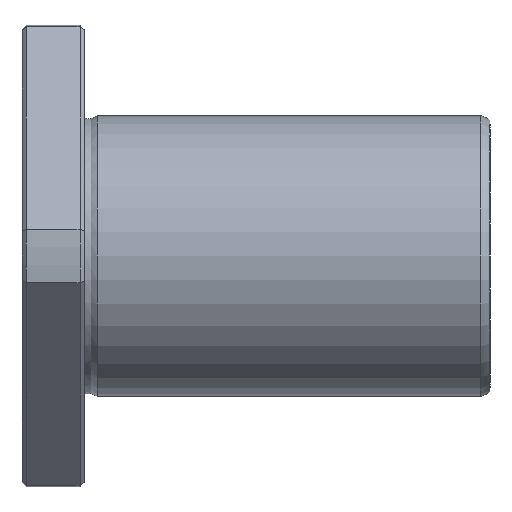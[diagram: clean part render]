
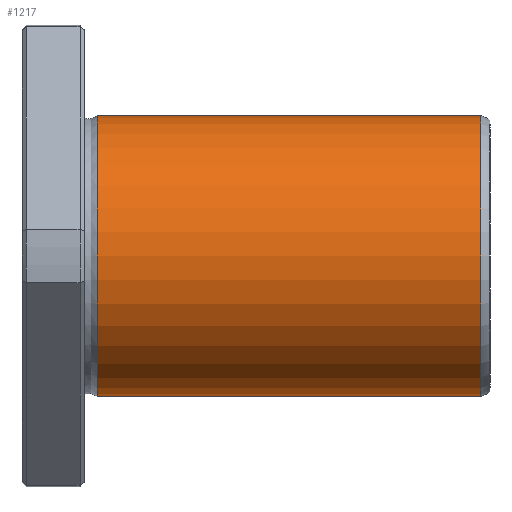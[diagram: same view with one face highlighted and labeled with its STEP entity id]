
A CAD part, front view. The second image highlights one B-rep face of the part: STEP entity #1217.
In plain terms, the highlighted cylindrical face has radius 22.5 mm (diameter 45 mm), a full revolution.
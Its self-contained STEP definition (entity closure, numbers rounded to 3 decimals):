
#1183=CARTESIAN_POINT('',(73.502,0.0,22.5));
#1184=VERTEX_POINT('',#1183);
#1185=CARTESIAN_POINT('',(73.502,0.0,0.0));
#1186=DIRECTION('',(-1.0,0.0,0.0));
#1187=DIRECTION('',(0.0,0.0,1.0));
#1188=AXIS2_PLACEMENT_3D('',#1185,#1186,#1187);
#1189=CIRCLE('',#1188,22.5);
#1190=EDGE_CURVE('',#1184,#1184,#1189,.T.);
#1198=CARTESIAN_POINT('',(42.762,0.0,0.0));
#1199=DIRECTION('',(-1.0,0.0,0.0));
#1200=DIRECTION('',(0.0,0.0,1.0));
#1201=AXIS2_PLACEMENT_3D('',#1198,#1199,#1200);
#1202=CYLINDRICAL_SURFACE('',#1201,22.5);
#1203=CARTESIAN_POINT('',(12.023,0.0,22.5));
#1204=VERTEX_POINT('',#1203);
#1205=CARTESIAN_POINT('',(12.023,0.0,0.0));
#1206=DIRECTION('',(-1.0,0.0,0.0));
#1207=DIRECTION('',(0.0,0.0,1.0));
#1208=AXIS2_PLACEMENT_3D('',#1205,#1206,#1207);
#1209=CIRCLE('',#1208,22.5);
#1210=EDGE_CURVE('',#1204,#1204,#1209,.T.);
#1211=ORIENTED_EDGE('',*,*,#1210,.F.);
#1212=EDGE_LOOP('',(#1211));
#1213=FACE_OUTER_BOUND('',#1212,.T.);
#1214=ORIENTED_EDGE('',*,*,#1190,.T.);
#1215=EDGE_LOOP('',(#1214));
#1216=FACE_BOUND('',#1215,.T.);
#1217=ADVANCED_FACE('',(#1213,#1216),#1202,.T.);
